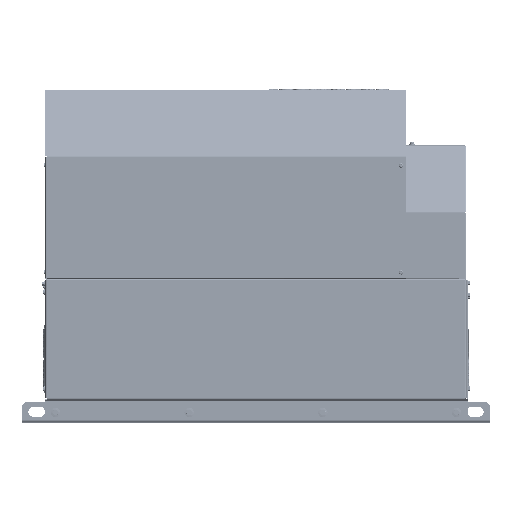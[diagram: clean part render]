
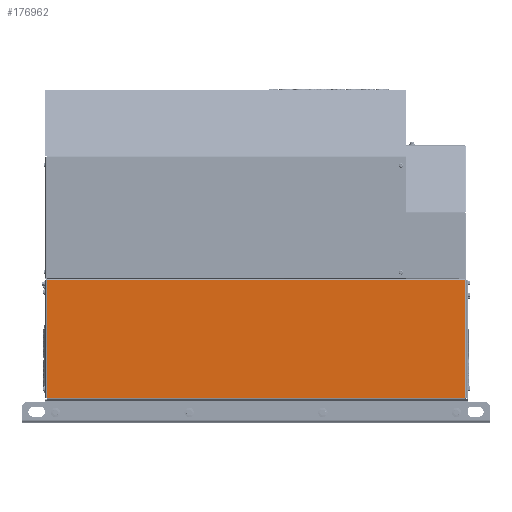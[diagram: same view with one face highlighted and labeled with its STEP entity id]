
A CAD part, left-side view. The second image highlights one B-rep face of the part: STEP entity #176962.
In plain terms, the highlighted planar face has unit normal (-1, 0, 0).
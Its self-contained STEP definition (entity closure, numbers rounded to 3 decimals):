
#11849=PLANE('',#187960);
#19482=FACE_OUTER_BOUND('',#29895,.T.);
#29895=EDGE_LOOP('',(#124452,#124453,#124454,#124455));
#41730=LINE('',#278929,#54064);
#41825=LINE('',#279228,#54159);
#41880=LINE('',#279615,#54214);
#41881=LINE('',#279616,#54215);
#54064=VECTOR('',#211660,10.);
#54159=VECTOR('',#211877,10.);
#54214=VECTOR('',#212026,10.);
#54215=VECTOR('',#212027,10.);
#74061=VERTEX_POINT('',#278926);
#74062=VERTEX_POINT('',#278928);
#74168=VERTEX_POINT('',#279217);
#74236=VERTEX_POINT('',#279614);
#92397=EDGE_CURVE('',#74062,#74061,#41730,.T.);
#92531=EDGE_CURVE('',#74061,#74168,#41825,.T.);
#92631=EDGE_CURVE('',#74062,#74236,#41880,.T.);
#92632=EDGE_CURVE('',#74236,#74168,#41881,.T.);
#124452=ORIENTED_EDGE('',*,*,#92631,.F.);
#124453=ORIENTED_EDGE('',*,*,#92397,.T.);
#124454=ORIENTED_EDGE('',*,*,#92531,.T.);
#124455=ORIENTED_EDGE('',*,*,#92632,.F.);
#176962=ADVANCED_FACE('',(#19482),#11849,.F.);
#187960=AXIS2_PLACEMENT_3D('',#279613,#212024,#212025);
#211660=DIRECTION('',(0.,1.,0.));
#211877=DIRECTION('',(0.,0.,-1.));
#212024=DIRECTION('center_axis',(1.,0.,0.));
#212025=DIRECTION('ref_axis',(0.,0.,
-1.));
#212026=DIRECTION('',(0.,0.,-1.));
#212027=DIRECTION('',(0.,1.,0.));
#278926=CARTESIAN_POINT('',(-225.,312.7,212.7));
#278928=CARTESIAN_POINT('',(-225.,-312.7,212.7));
#278929=CARTESIAN_POINT('',(-225.,315.,212.7));
#279217=CARTESIAN_POINT('',(-225.,312.7,36.353));
#279228=CARTESIAN_POINT('',(-225.,312.7,116.05));
#279613=CARTESIAN_POINT('Origin',(-225.,-315.,35.4));
#279614=CARTESIAN_POINT('',(-225.,-312.7,36.353));
#279615=CARTESIAN_POINT('',(-225.,-312.7,196.71));
#279616=CARTESIAN_POINT('',(-225.,-315.,36.353));
